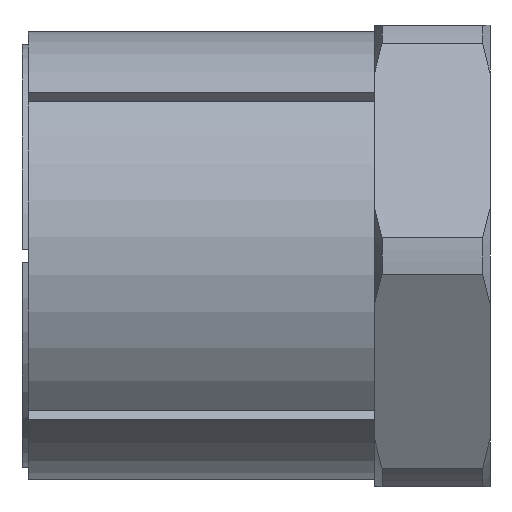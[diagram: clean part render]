
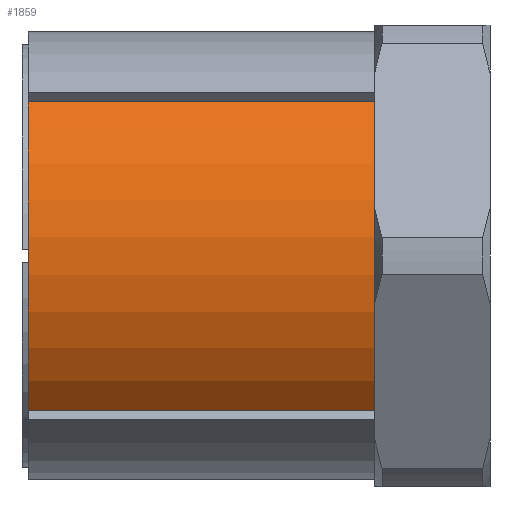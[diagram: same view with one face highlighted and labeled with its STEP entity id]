
A CAD part, front view. The second image highlights one B-rep face of the part: STEP entity #1859.
In plain terms, the highlighted cylindrical face has radius 17.5 mm (diameter 35 mm), a partial arc.
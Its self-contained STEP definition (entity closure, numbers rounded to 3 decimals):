
#29 = EDGE_CURVE ( 'NONE', #2083, #2000, #1273, .T. ) ;
#126 = EDGE_CURVE ( 'NONE', #2000, #2082, #976, .T. ) ;
#197 = AXIS2_PLACEMENT_3D ( 'NONE', #539, #541, #560 ) ;
#215 = EDGE_CURVE ( 'NONE', #2082, #2081, #1134, .T. ) ;
#300 = AXIS2_PLACEMENT_3D ( 'NONE', #2295, #2026, #2059 ) ;
#310 = AXIS2_PLACEMENT_3D ( 'NONE', #1987, #2149, #2038 ) ;
#311 = EDGE_CURVE ( 'NONE', #2083, #2081, #1162, .T. ) ;
#419 = CARTESIAN_POINT ( 'NONE',  ( 27., -12.723, -12.016 ) ) ;
#453 = CARTESIAN_POINT ( 'NONE',  ( 0., -12.723, -12.016 ) ) ;
#454 = CARTESIAN_POINT ( 'NONE',  ( 27., -12.723, 12.016 ) ) ;
#455 = CARTESIAN_POINT ( 'NONE',  ( 0., -12.723, 12.016 ) ) ;
#539 = CARTESIAN_POINT ( 'NONE',  ( 0., 0., 0. ) ) ;
#541 = DIRECTION ( 'NONE',  ( -1., 0., 0. ) ) ;
#560 = DIRECTION ( 'NONE',  ( 0., 0., 1. ) ) ;
#823 = CYLINDRICAL_SURFACE ( 'NONE', #197, 17.5 ) ;
#946 = FACE_OUTER_BOUND ( 'NONE', #1608, .T. ) ;
#976 = CIRCLE ( 'NONE', #300, 17.5 ) ;
#1103 = VECTOR ( 'NONE', #2317, 1000. ) ;
#1134 = LINE ( 'NONE', #2409, #1103 ) ;
#1162 = CIRCLE ( 'NONE', #310, 17.5 ) ;
#1240 = VECTOR ( 'NONE', #2640, 1000. ) ;
#1273 = LINE ( 'NONE', #2431, #1240 ) ;
#1359 = ORIENTED_EDGE ( 'NONE', *, *, #311, .F. ) ;
#1387 = ORIENTED_EDGE ( 'NONE', *, *, #215, .T. ) ;
#1411 = ORIENTED_EDGE ( 'NONE', *, *, #126, .T. ) ;
#1434 = ORIENTED_EDGE ( 'NONE', *, *, #29, .T. ) ;
#1608 = EDGE_LOOP ( 'NONE', ( #1411, #1387, #1359, #1434 ) ) ;
#1859 = ADVANCED_FACE ( 'NONE', ( #946 ), #823, .T. ) ;
#1987 = CARTESIAN_POINT ( 'NONE',  ( 0., 0., 0. ) ) ;
#2000 = VERTEX_POINT ( 'NONE', #419 ) ;
#2026 = DIRECTION ( 'NONE',  ( -1., 0., 0. ) ) ;
#2038 = DIRECTION ( 'NONE',  ( 0., 0., 1. ) ) ;
#2059 = DIRECTION ( 'NONE',  ( 0., 0., 1. ) ) ;
#2081 = VERTEX_POINT ( 'NONE', #455 ) ;
#2082 = VERTEX_POINT ( 'NONE', #454 ) ;
#2083 = VERTEX_POINT ( 'NONE', #453 ) ;
#2149 = DIRECTION ( 'NONE',  ( -1., 0., 0. ) ) ;
#2295 = CARTESIAN_POINT ( 'NONE',  ( 27., 0., 0. ) ) ;
#2317 = DIRECTION ( 'NONE',  ( -1., 0., 0. ) ) ;
#2409 = CARTESIAN_POINT ( 'NONE',  ( 0., -12.723, 12.016 ) ) ;
#2431 = CARTESIAN_POINT ( 'NONE',  ( 0., -12.723, -12.016 ) ) ;
#2640 = DIRECTION ( 'NONE',  ( 1., 0., 0. ) ) ;
